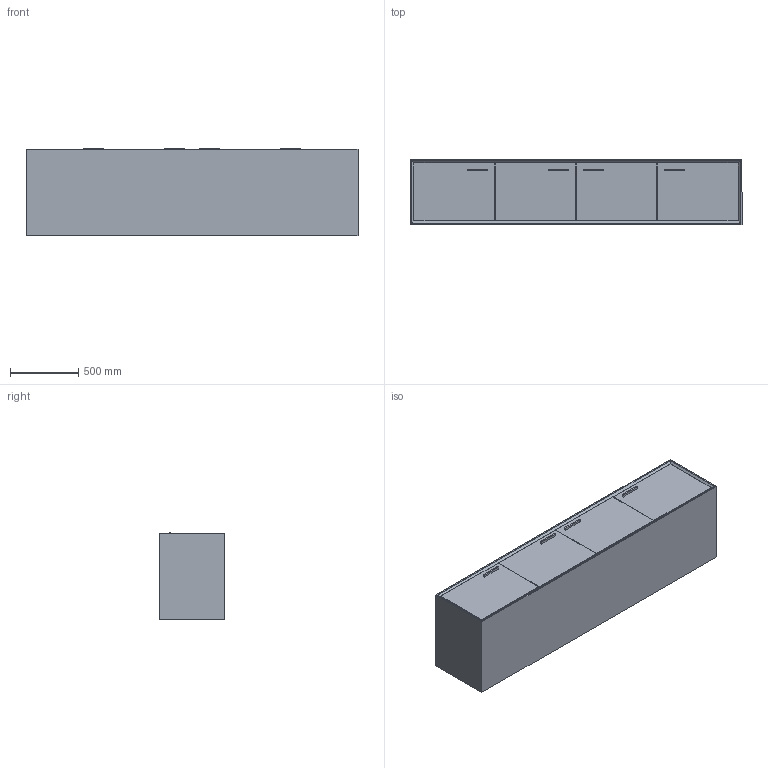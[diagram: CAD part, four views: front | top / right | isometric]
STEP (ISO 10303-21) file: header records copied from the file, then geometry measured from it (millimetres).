
FILE_DESCRIPTION(/* description */ ('','CAx-IF Rec.Pracs.---Representation and Presentation of Product Manufacturing Information (PMI)---4.0---2014-10-13'),/* implementation_level */ '2;1');
FILE_NAME(/* name */ 'AERO^CS2.stp',/* time_stamp */ '2024-12-05T16:43:19-05:00',/* author */ ('mbowman'),/* organization */ (''),/* preprocessor_version */ 'ST-DEVELOPER v19.2',/* originating_system */ 'Autodesk Inventor 2023',/* authorisation */ '');
FILE_SCHEMA (('AP242_MANAGED_MODEL_BASED_3D_ENGINEERING_MIM_LF { 1 0 10303 442 1 1 4 }'));
Length unit declared in the file: inch
Products named in the file (3): AERO^STANDARD CREDENZA_19H WALL HUNG-SOLID ASSEMBLY; AERO^STANDARD CREDENZA_19H WALL HUNG-PARTS SOLID; H-Q-PULLNEW
Assembly tree (5 placements, depth 2):
  AERO^STANDARD CREDENZA_19H WALL HUNG-SOLID ASSEMBLY
    AERO^STANDARD CREDENZA_19H WALL HUNG-PARTS SOLID
    H-Q-PULLNEW  x4
Bounding box: 2438.4 x 482.6 x 644.52 mm (x, y, z)
Volume: 185048959.7 mm3; surface area: 13497598.3 mm2
Topology: 16 solids, 16 shells, 130 faces, 282 edges, 184 vertices
Faces by surface type: plane 106, cone 8, cylinder 8, bspline 8
Full cylindrical faces by diameter (mm): 3.962 x8
Entity records: 3332 total; most frequent: CARTESIAN_POINT 702, DIRECTION 451, ORIENTED_EDGE 428, EDGE_CURVE 214, LINE 207, VECTOR 207, VERTEX_POINT 142, STYLED_ITEM 130
